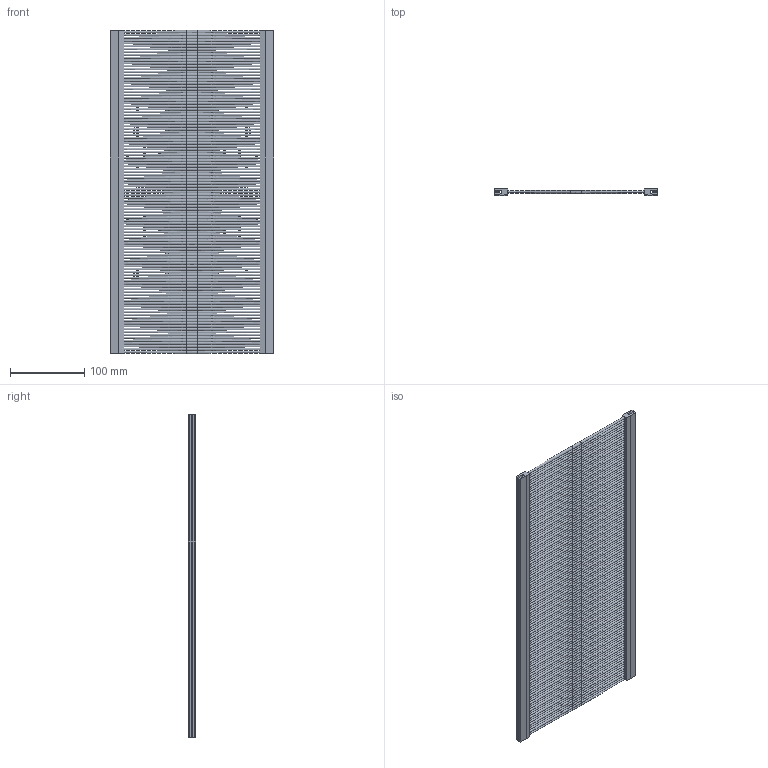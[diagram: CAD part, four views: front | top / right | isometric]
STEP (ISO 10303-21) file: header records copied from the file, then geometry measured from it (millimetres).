
FILE_DESCRIPTION(('Open CASCADE Model'),'2;1');
FILE_NAME('Open CASCADE Shape Model','2025-02-21T16:18:40',('Author'),( 'Open CASCADE'),'Open CASCADE STEP processor 7.8','Open CASCADE 7.8' ,'Unknown');
FILE_SCHEMA(('AUTOMOTIVE_DESIGN { 1 0 10303 214 1 1 1 1 }'));
Length unit declared in the file: millimetre
Products named in the file (2): Compound1; Solid1
Assembly tree (2 placements, depth 2):
  Compound1
    Solid1  x2
Bounding box: 220 x 9.5 x 435.7 mm (x, y, z)
Volume: 346901.4 mm3; surface area: 298914 mm2
Topology: 2 solids, 2 shells, 254 faces, 1422 edges, 944 vertices
Faces by surface type: cone 226, plane 28
Entity records: 12360 total; most frequent: CARTESIAN_POINT 6466, ORIENTED_EDGE 1422, DIRECTION 1198, EDGE_CURVE 711, AXIS2_PLACEMENT_3D 582, VERTEX_POINT 472, CIRCLE 452, FACE_BOUND 239
